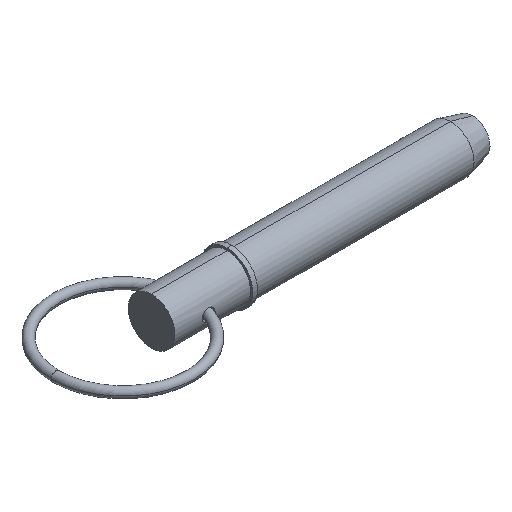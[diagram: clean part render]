
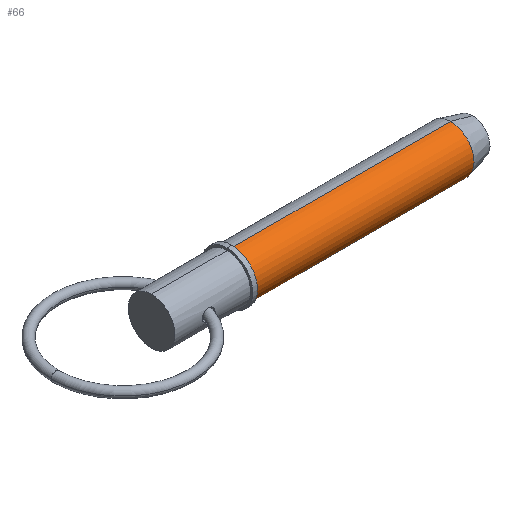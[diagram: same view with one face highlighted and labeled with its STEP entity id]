
A CAD part, isometric view. The second image highlights one B-rep face of the part: STEP entity #66.
In plain terms, the highlighted cylindrical face has radius 11.115 mm (diameter 22.23 mm), a partial arc.
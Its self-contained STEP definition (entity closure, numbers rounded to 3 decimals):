
#25 = CARTESIAN_POINT ( 'NONE',  ( 38.1, 0., 11.115 ) ) ;
#66 = ADVANCED_FACE ( 'NONE', ( #843 ), #603, .T. ) ;
#73 = CARTESIAN_POINT ( 'NONE',  ( 142.03, 0., 0. ) ) ;
#99 = CARTESIAN_POINT ( 'NONE',  ( 142.03, 0., -11.115 ) ) ;
#100 = DIRECTION ( 'NONE',  ( 1., 0., 0. ) ) ;
#110 = CARTESIAN_POINT ( 'NONE',  ( 0., 0., -11.115 ) ) ;
#154 = CARTESIAN_POINT ( 'NONE',  ( 142.03, 0., 11.115 ) ) ;
#157 = CARTESIAN_POINT ( 'NONE',  ( 0., 0., 0. ) ) ;
#158 = EDGE_CURVE ( 'NONE', #729, #991, #855, .T. ) ;
#172 = VERTEX_POINT ( 'NONE', #25 ) ;
#238 = ORIENTED_EDGE ( 'NONE', *, *, #452, .F. ) ;
#265 = ORIENTED_EDGE ( 'NONE', *, *, #158, .T. ) ;
#289 = VECTOR ( 'NONE', #683, 1000. ) ;
#333 = CARTESIAN_POINT ( 'NONE',  ( 38.1, 0., 0. ) ) ;
#412 = AXIS2_PLACEMENT_3D ( 'NONE', #333, #672, #689 ) ;
#422 = EDGE_CURVE ( 'NONE', #711, #991, #848, .T. ) ;
#452 = EDGE_CURVE ( 'NONE', #172, #711, #760, .T. ) ;
#465 = EDGE_LOOP ( 'NONE', ( #238, #732, #265, #1063 ) ) ;
#535 = DIRECTION ( 'NONE',  ( 1., 0., 0. ) ) ;
#603 = CYLINDRICAL_SURFACE ( 'NONE', #720, 11.115 ) ;
#672 = DIRECTION ( 'NONE',  ( 1., 0., 0. ) ) ;
#683 = DIRECTION ( 'NONE',  ( 1., 0., 0. ) ) ;
#685 = DIRECTION ( 'NONE',  ( 0., 0., -1. ) ) ;
#689 = DIRECTION ( 'NONE',  ( 0., 0., -1. ) ) ;
#711 = VERTEX_POINT ( 'NONE', #154 ) ;
#720 = AXIS2_PLACEMENT_3D ( 'NONE', #157, #100, #685 ) ;
#729 = VERTEX_POINT ( 'NONE', #899 ) ;
#732 = ORIENTED_EDGE ( 'NONE', *, *, #995, .T. ) ;
#750 = DIRECTION ( 'NONE',  ( 1., 0., 0. ) ) ;
#760 = LINE ( 'NONE', #921, #289 ) ;
#812 = VECTOR ( 'NONE', #535, 1000. ) ;
#843 = FACE_OUTER_BOUND ( 'NONE', #465, .T. ) ;
#848 = CIRCLE ( 'NONE', #917, 11.115 ) ;
#855 = LINE ( 'NONE', #110, #812 ) ;
#899 = CARTESIAN_POINT ( 'NONE',  ( 38.1, 0., -11.115 ) ) ;
#917 = AXIS2_PLACEMENT_3D ( 'NONE', #73, #750, #1076 ) ;
#921 = CARTESIAN_POINT ( 'NONE',  ( 0., 0., 11.115 ) ) ;
#935 = CIRCLE ( 'NONE', #412, 11.115 ) ;
#991 = VERTEX_POINT ( 'NONE', #99 ) ;
#995 = EDGE_CURVE ( 'NONE', #172, #729, #935, .T. ) ;
#1063 = ORIENTED_EDGE ( 'NONE', *, *, #422, .F. ) ;
#1076 = DIRECTION ( 'NONE',  ( 0., 0., -1. ) ) ;
